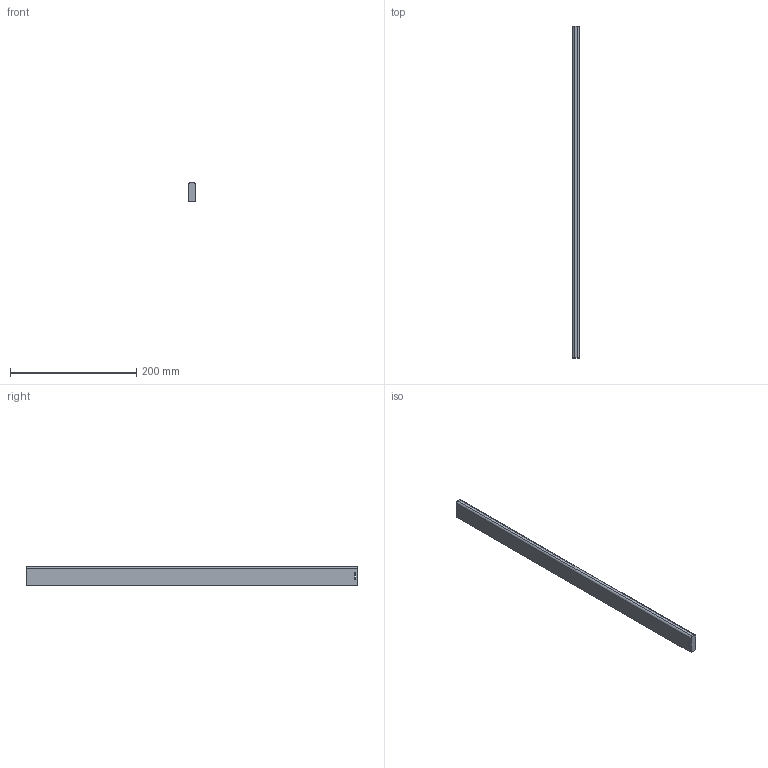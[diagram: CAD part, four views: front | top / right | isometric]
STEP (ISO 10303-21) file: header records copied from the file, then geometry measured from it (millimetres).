
FILE_DESCRIPTION (( 'STEP AP214' ), '1' );
FILE_NAME ('_Seitenreling_S760605500_RL526,5.step', '2010-09-06T14:51:50', ( 'grass' ), ( '' ), 'SwSTEP 2.0', 'SolidWorks 2010', '' );
FILE_SCHEMA (( 'AUTOMOTIVE_DESIGN' ));
Length unit declared in the file: millimetre
Products named in the file (1): _Seitenreling_S760605500_RL526,5
Bounding box: 10.5 x 526.5 x 30 mm (x, y, z)
Volume: 163575 mm3; surface area: 42125.1 mm2
Topology: 1 solids, 1 shells, 12 faces, 30 edges, 20 vertices
Faces by surface type: plane 8, cylinder 4
Entity records: 400 total; most frequent: DIRECTION 64, CARTESIAN_POINT 63, ORIENTED_EDGE 60, EDGE_CURVE 30, LINE 22, VECTOR 22, AXIS2_PLACEMENT_3D 21, VERTEX_POINT 20
